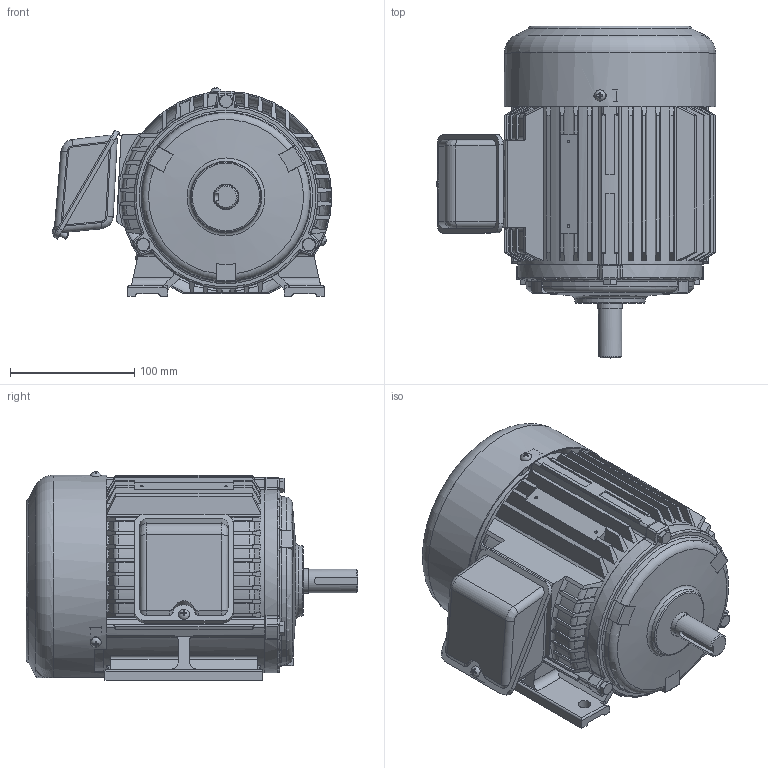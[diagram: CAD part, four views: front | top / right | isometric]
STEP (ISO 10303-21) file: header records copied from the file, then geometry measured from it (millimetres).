
FILE_DESCRIPTION(/* description */ ('Unknown'),/* implementation_level */ '2;1');
FILE_NAME(/* name */ '1-SMA-39250_외형도(140DIA)',/* time_stamp */ '2026-07-24T08:25:45+09:00',/* author */ ('Unknown'),/* organization */ ('Unknown'),/* preprocessor_version */ 'ST-DEVELOPER v16',/* originating_system */ 'DEX',/* authorisation */ $);
FILE_SCHEMA (('AUTOMOTIVE_DESIGN {1 0 10303 214 3 1 1}'));
Length unit declared in the file: millimetre
Products named in the file (13): 1-SMA-39250_¿ÜÇüµµ(140DIxÆÖÄ³(; 2-SMA-38819_FRAME(140DIA); 3-SMA-30846_擅粽塭鰍(140D; 4-SMA-30847_µÚºê¶óÄÏ(140DÆÖÄ³(; 5-SMA-39060_SHAFT(140DIA); 6-SMA-31241_FAN(120DIA~140DIA); 7-SMA-30642_FAN COVER(140DIA); 8-SMA-33038_T-BOX(鼻)(120,140DIA); 9-SMA-33039_T-BOX(ж)(120~140DIA); ｵﾕｱﾙ ｽﾊﾀﾚ M5x0.8x㍽; 幫陝獐お M6x1xx; 6204ZZ; 6203ZZ
Assembly tree (19 placements, depth 2):
  1-SMA-39250_¿ÜÇüµµ(140DIxÆÖÄ³(
    2-SMA-38819_FRAME(140DIA)
    3-SMA-30846_擅粽塭鰍(140D
    4-SMA-30847_µÚºê¶óÄÏ(140DÆÖÄ³(
    5-SMA-39060_SHAFT(140DIA)
    6-SMA-31241_FAN(120DIA~140DIA)
    7-SMA-30642_FAN COVER(140DIA)
    8-SMA-33038_T-BOX(鼻)(120,140DIA)
    ｵﾕｱﾙ ｽﾊﾀﾚ M5x0.8x㍽  x4
    幫陝獐お M6x1xx  x6
    6204ZZ
    6203ZZ
  9-SMA-33039_T-BOX(ж)(120~140DIA)
Bounding box: 224.75 x 267 x 167.89 mm (x, y, z)
Volume: 1001533.7 mm3; surface area: 549800 mm2
Topology: 42 solids, 42 shells, 1708 faces, 4428 edges, 2804 vertices
Faces by surface type: plane 596, cylinder 555, cone 325, torus 174, sphere 36, bspline 22
Full cylindrical faces by diameter (mm): 2.2 x2, 4.134 x7, 4.917 x12, 5 x7, 6 x13, 8 x6, 10 x4, 14.1 x1, 14.2 x1, 16.8 x1, 17 x2, 17.6 x1, 19 x1, 19.8 x1, 20 x2, 20.1 x1, 20.6 x1, 22 x1, 23 x1, 23.571 x2, 23.971 x2, 27.714 x2, 28.114 x2, 29 x2, 33 x1, 33.029 x2, 33.429 x2, 34 x1, 38.886 x2, 39.286 x2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
Entity records: 65342 total; most frequent: CARTESIAN_POINT 24413, DIRECTION 7580, ORIENTED_EDGE 7546, EDGE_CURVE 3773, AXIS2_PLACEMENT_3D 3045, VERTEX_POINT 2502, FACE_BOUND 1851, EDGE_LOOP 1827
